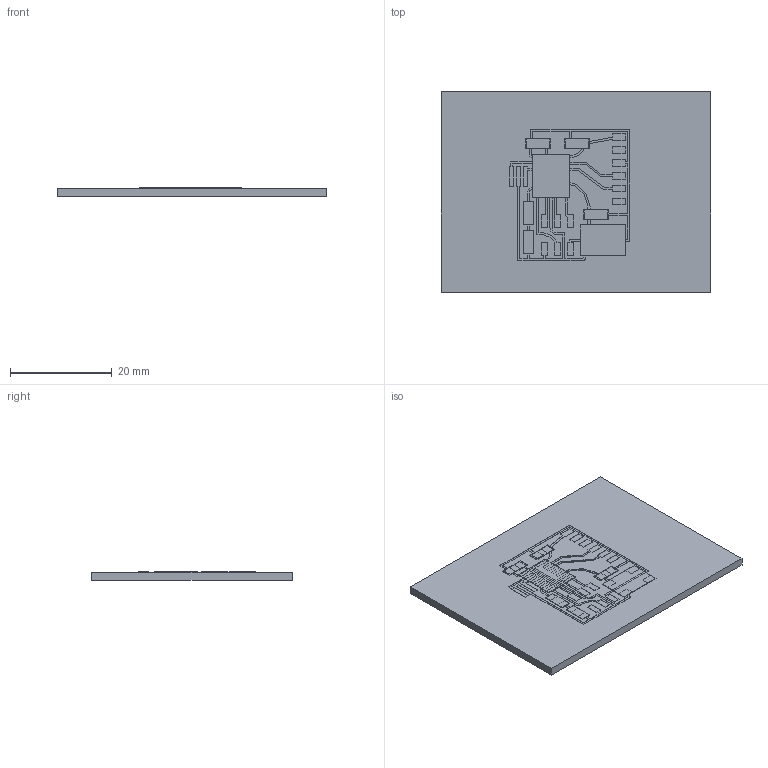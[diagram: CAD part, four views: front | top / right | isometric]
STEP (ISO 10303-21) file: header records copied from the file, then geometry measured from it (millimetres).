
FILE_DESCRIPTION(('Open CASCADE Model'),'2;1');
FILE_NAME('Open CASCADE Shape Model','2017-03-06T12:17:11',('Author'),( 'Open CASCADE'),'Open CASCADE STEP processor 6.7','Open CASCADE 6.7' ,'Unknown');
FILE_SCHEMA(('AUTOMOTIVE_DESIGN_CC2 { 1 2 10303 214 -1 1 5 4 }'));
Length unit declared in the file: millimetre
Products named in the file (15): brd_10510; PCB; C1206; SOIC14; R1206; LED1206FAB; R1206FAB; 6MM_SWITCH; KEEPOUT; trace
Assembly tree (11 placements, depth 2):
  brd_10510
    PCB
    C1206
    SOIC14
    R1206  x2
    LED1206FAB
    R1206FAB
    6MM_SWITCH
    KEEPOUT
    KEEPOUT
    KEEPOUT
  trace
  trace
  trace
  trace
Bounding box: 53.01 x 39.36 x 1.7 mm (x, y, z)
Volume: 3363.8 mm3; surface area: 5259.3 mm2
Topology: 30 solids, 30 shells, 470 faces, 1230 edges, 820 vertices
Faces by surface type: plane 470
Entity records: 30277 total; most frequent: CARTESIAN_POINT 4942, DIRECTION 4606, LINE 3654, VECTOR 3654, ORIENTED_EDGE 2436, PCURVE 2436, DEFINITIONAL_REPRESENTATION 2436, EDGE_CURVE 1218
